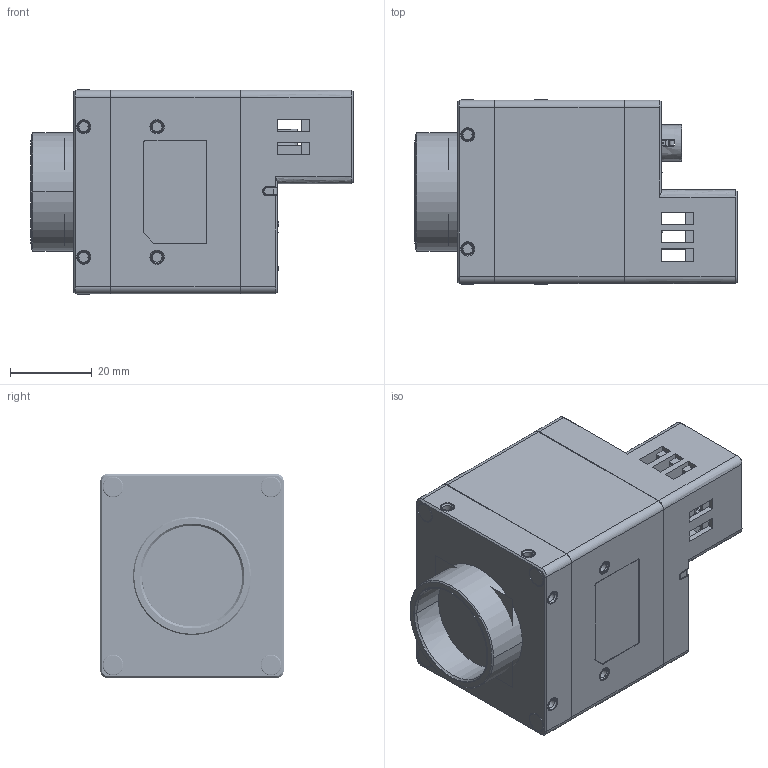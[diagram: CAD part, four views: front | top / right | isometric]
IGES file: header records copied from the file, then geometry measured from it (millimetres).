
Start section:  PTC IGES file: 222222.igs
Global section: file name: 222222.igs; native system: Creo Parametric by PTC Inc.; preprocessor: 2017260; author: wangyijun6; organization: Unknown; date: 20230223.144554; units: millimetre
Bounding box: 79.06 x 45.25 x 50.25 mm (x, y, z)
Volume: 112811.4 mm3; surface area: 49730.4 mm2
Topology: 2 solids, 75 shells, 4233 faces, 14595 edges, 13127 vertices
Faces by surface type: bspline 2361, revolution 1857, extrusion 15
